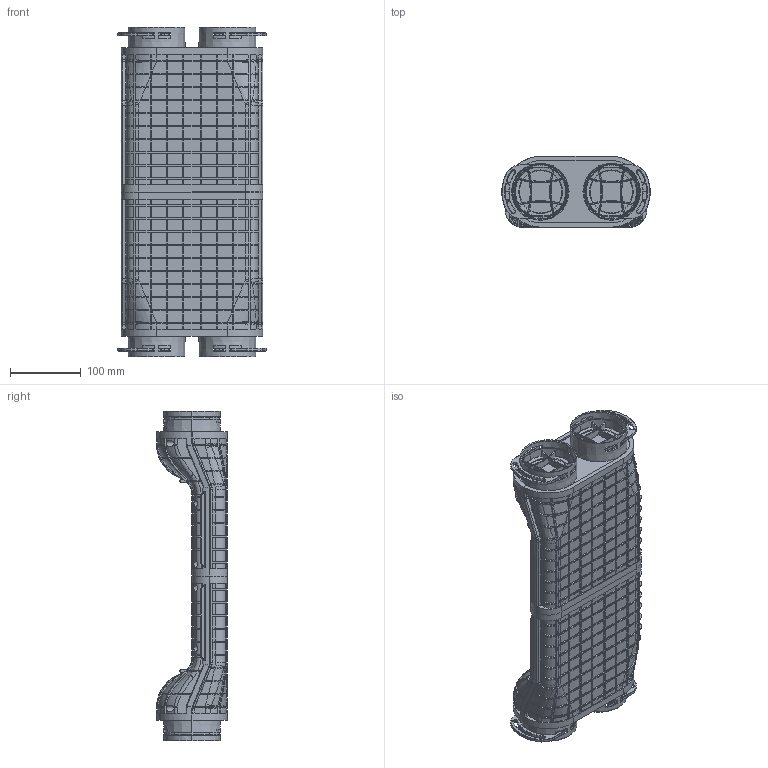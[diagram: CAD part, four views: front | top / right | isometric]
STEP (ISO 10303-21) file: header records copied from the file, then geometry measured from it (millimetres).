
FILE_DESCRIPTION((''),'2;1');
FILE_NAME('ASM0001_ASM','2025-12-30T08:40:33',('niepogodzinskij'),(''),'CREO PARAMETRIC BY PTC INC, 2025010','CREO PARAMETRIC BY PTC INC, 2025010','');
FILE_SCHEMA(('CONFIG_CONTROL_DESIGN'));
Products named in the file (4): PRZEJSCIOWKA_DOL_221028_1; PRZEJSCIOWKA_GORA; 0VCBP75X2; ASM0001_ASM
Assembly tree (6 placements, depth 2):
  ASM0001_ASM
    PRZEJSCIOWKA_DOL_221028_1  x2
    PRZEJSCIOWKA_GORA  x2
    0VCBP75X2  x2
Bounding box: 210 x 100 x 465 mm (x, y, z)
Volume: 4674658.6 mm3; surface area: 674504.1 mm2
Topology: 6 solids, 6 shells, 5358 faces, 14180 edges, 8958 vertices
Faces by surface type: plane 2350, cylinder 996, bspline 914, torus 570, cone 460, sphere 68
Entity records: 122764 total; most frequent: CARTESIAN_POINT 59440, ORIENTED_EDGE 14116, DIRECTION 12128, EDGE_CURVE 7058, AXIS2_PLACEMENT_3D 4494, VERTEX_POINT 4479, VECTOR 3140, LINE 3140
